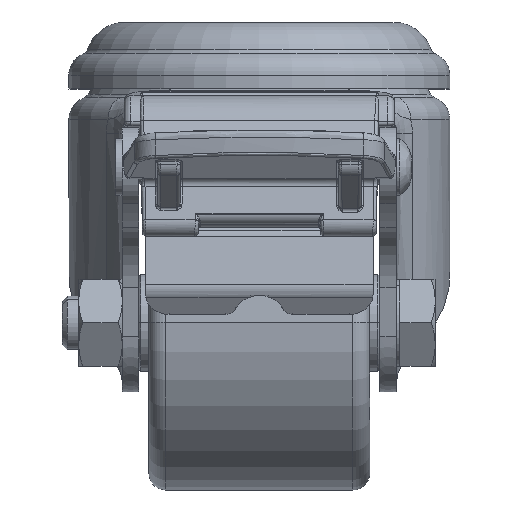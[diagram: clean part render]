
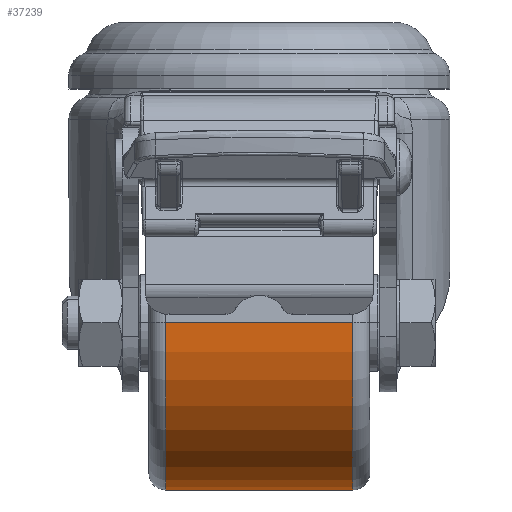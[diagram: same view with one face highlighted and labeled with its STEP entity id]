
A CAD part, top view. The second image highlights one B-rep face of the part: STEP entity #37239.
In plain terms, the highlighted cylindrical face has radius 25 mm (diameter 50 mm), a partial arc.
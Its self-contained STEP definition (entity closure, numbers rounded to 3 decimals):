
#2767 = DIRECTION ( 'NONE',  ( 0., 1., 0. ) ) ;
#5081 = DIRECTION ( 'NONE',  ( 1., 0., 0. ) ) ;
#6314 = DIRECTION ( 'NONE',  ( -1., 0., 0. ) ) ;
#9920 = AXIS2_PLACEMENT_3D ( 'NONE', #15383, #71751, #33901 ) ;
#10682 = EDGE_CURVE ( 'NONE', #23184, #65718, #58723, .T. ) ;
#11763 = ORIENTED_EDGE ( 'NONE', *, *, #10682, .F. ) ;
#12108 = CARTESIAN_POINT ( 'NONE',  ( 14., 25., 0. ) ) ;
#15383 = CARTESIAN_POINT ( 'NONE',  ( -18.15, 0., 0. ) ) ;
#15715 = LINE ( 'NONE', #12108, #66139 ) ;
#21608 = CARTESIAN_POINT ( 'NONE',  ( 14., 0., 0. ) ) ;
#22459 = ORIENTED_EDGE ( 'NONE', *, *, #54771, .T. ) ;
#23184 = VERTEX_POINT ( 'NONE', #57250 ) ;
#25314 = CARTESIAN_POINT ( 'NONE',  ( -14., 0., 0. ) ) ;
#27460 = AXIS2_PLACEMENT_3D ( 'NONE', #21608, #40624, #2767 ) ;
#30885 = CARTESIAN_POINT ( 'NONE',  ( 14., 25., 0. ) ) ;
#33901 = DIRECTION ( 'NONE',  ( 0., -1., 0. ) ) ;
#34961 = VECTOR ( 'NONE', #6314, 1000. ) ;
#37189 = DIRECTION ( 'NONE',  ( 0., 1., 0. ) ) ;
#37239 = ADVANCED_FACE ( 'NONE', ( #73800 ), #71799, .T. ) ;
#37895 = EDGE_LOOP ( 'NONE', ( #69924, #11763, #42716, #22459 ) ) ;
#38896 = EDGE_CURVE ( 'NONE', #56048, #65718, #60749, .T. ) ;
#40495 = VERTEX_POINT ( 'NONE', #30885 ) ;
#40624 = DIRECTION ( 'NONE',  ( 1., 0., 0. ) ) ;
#42503 = CARTESIAN_POINT ( 'NONE',  ( -14., -25., 0. ) ) ;
#42716 = ORIENTED_EDGE ( 'NONE', *, *, #51651, .F. ) ;
#44191 = CARTESIAN_POINT ( 'NONE',  ( 14., -25., 0. ) ) ;
#51651 = EDGE_CURVE ( 'NONE', #40495, #23184, #79158, .T. ) ;
#54771 = EDGE_CURVE ( 'NONE', #40495, #56048, #15715, .T. ) ;
#56048 = VERTEX_POINT ( 'NONE', #78162 ) ;
#57250 = CARTESIAN_POINT ( 'NONE',  ( 14., -25., 0. ) ) ;
#58723 = LINE ( 'NONE', #44191, #34961 ) ;
#60749 = CIRCLE ( 'NONE', #70941, 25. ) ;
#62377 = DIRECTION ( 'NONE',  ( -1., 0., 0. ) ) ;
#65718 = VERTEX_POINT ( 'NONE', #42503 ) ;
#66139 = VECTOR ( 'NONE', #62377, 1000. ) ;
#69924 = ORIENTED_EDGE ( 'NONE', *, *, #38896, .T. ) ;
#70941 = AXIS2_PLACEMENT_3D ( 'NONE', #25314, #5081, #37189 ) ;
#71751 = DIRECTION ( 'NONE',  ( 1., 0., 0. ) ) ;
#71799 = CYLINDRICAL_SURFACE ( 'NONE', #9920, 25. ) ;
#73800 = FACE_OUTER_BOUND ( 'NONE', #37895, .T. ) ;
#78162 = CARTESIAN_POINT ( 'NONE',  ( -14., 25., 0. ) ) ;
#79158 = CIRCLE ( 'NONE', #27460, 25. ) ;
